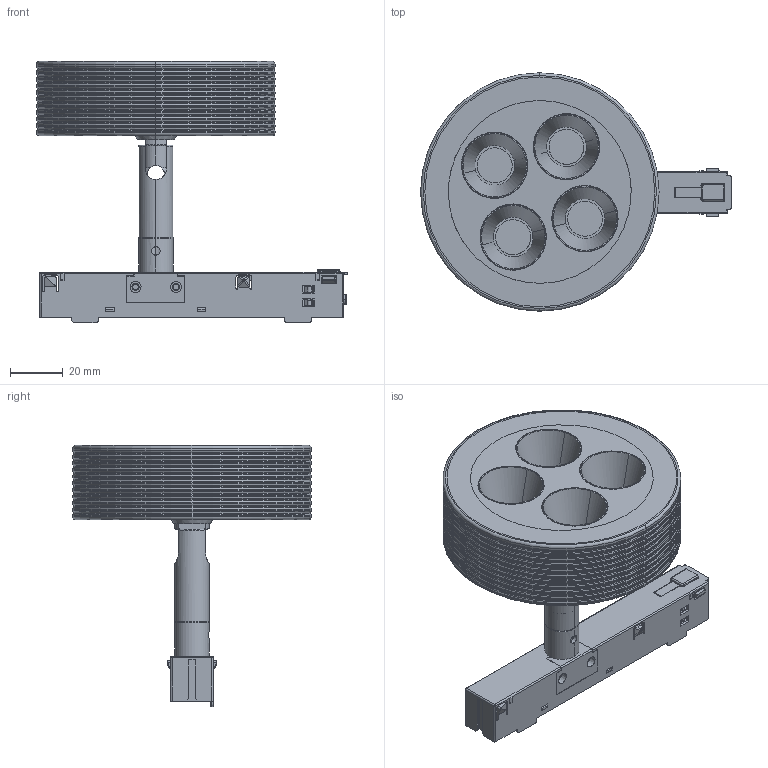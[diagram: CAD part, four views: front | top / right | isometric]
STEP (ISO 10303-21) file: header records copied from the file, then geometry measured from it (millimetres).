
FILE_DESCRIPTION (( 'STEP AP214' ), '1' );
FILE_NAME ('RUEDA_tracklight.STEP', '2025-09-19T07:38:17', ( '' ), ( '' ), 'SwSTEP 2.0', 'SolidWorks 2018', '' );
FILE_SCHEMA (( 'AUTOMOTIVE_DESIGN' ));
Length unit declared in the file: millimetre
Products named in the file (1): RUEDA_tracklight
Bounding box: 117.33 x 90 x 98.56 mm (x, y, z)
Surface area: 106293 mm2 (no closed solid volume)
Topology: 0 solids, 45 shells, 2374 faces, 6340 edges, 4121 vertices
Faces by surface type: plane 1290, bspline 541, cylinder 345, torus 90, cone 68, sphere 40
Entity records: 106186 total; most frequent: CARTESIAN_POINT 27495, ORIENTED_EDGE 12656, DIRECTION 8038, EDGE_CURVE 6337, VERTEX_POINT 4121, AXIS2_PLACEMENT_3D 2683, VECTOR 2672, LINE 2672
